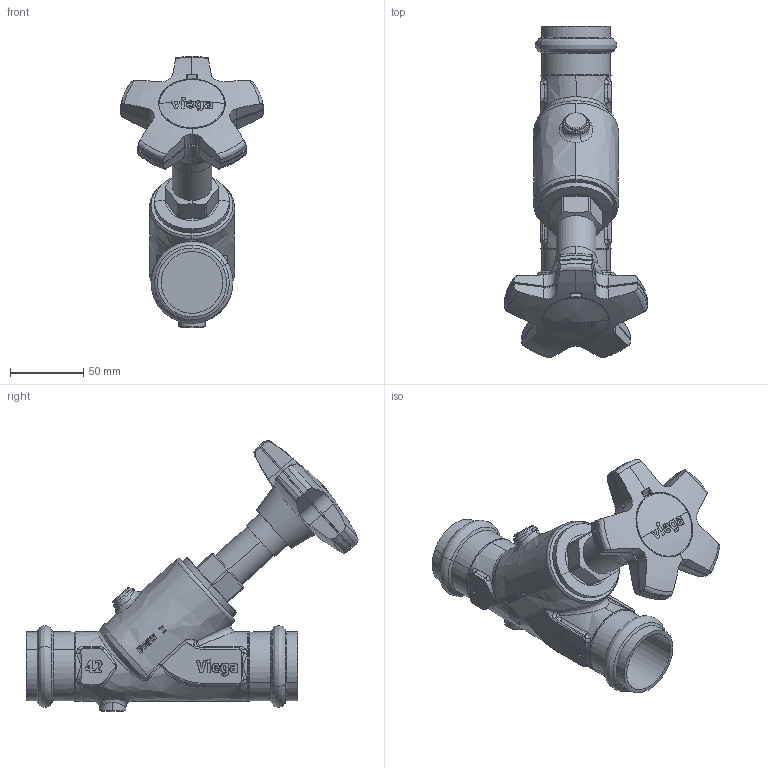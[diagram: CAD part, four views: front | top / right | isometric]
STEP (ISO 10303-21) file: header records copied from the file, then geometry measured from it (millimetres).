
FILE_DESCRIPTION(('STEP AP214'),'1');
FILE_NAME('pim0013784.stp','2017-03-31T11:15:44',('cad-pim'),('TransMagic, Inc.'),'TMR12sp0','TransMagic R12',' ');
FILE_SCHEMA(('AUTOMOTIVE_DESIGN'));
Length unit declared in the file: millimetre
Products named in the file (1): pim0013784 (1)
Bounding box: 97.61 x 226.06 x 184.71 mm (x, y, z)
Volume: 557512.6 mm3; surface area: 75756.8 mm2
Topology: 1 solids, 1 shells, 632 faces, 1743 edges, 1136 vertices
Faces by surface type: bspline 632
Entity records: 43088 total; most frequent: CARTESIAN_POINT 19270, ORIENTED_EDGE 3434, STYLED_ITEM 1887, PRESENTATION_STYLE_ASSIGNMENT 1887, COLOUR_RGB 1887, EDGE_CURVE 1717, DIRECTION 1203, VERTEX_POINT 1136
